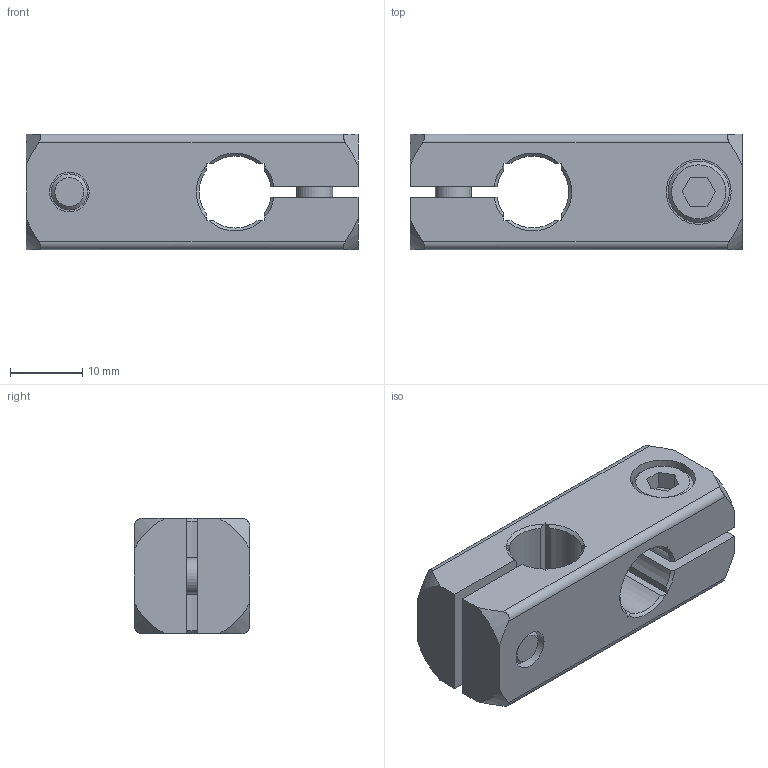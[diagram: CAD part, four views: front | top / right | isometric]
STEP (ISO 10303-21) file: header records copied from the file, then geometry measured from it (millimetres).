
FILE_DESCRIPTION( ( 'STEP AP203' ), '1' );
FILE_NAME( 'C:/Temp/Ganter_Step_05_03_2020/data/3_7/gn_474/Two-way clamp mounting GN 474-B10-B10-ELS.stp', '2020-03-12T14:44:43', ( 'License CC BY-ND 4.0' ), ( 'CADENAS' ), ' ', 'PARTsolutions', ' ' );
FILE_SCHEMA( ( 'CONFIG_CONTROL_DESIGN' ) );
Length unit declared in the file: millimetre
Products named in the file (1): _Two-way clamp mounting GN 474-B10-B10-ELS
Bounding box: 46 x 16 x 16 mm (x, y, z)
Volume: 8283.6 mm3; surface area: 5807.9 mm2
Topology: 1 solids, 1 shells, 106 faces, 280 edges, 186 vertices
Faces by surface type: plane 50, cone 32, cylinder 24
Full cylindrical faces by diameter (mm): 5 x2, 5.5 x4, 8.5 x2, 9 x2
Entity records: 3404 total; most frequent: CARTESIAN_POINT 843, ORIENTED_EDGE 528, DIRECTION 486, EDGE_CURVE 264, VERTEX_POINT 184, AXIS2_PLACEMENT_3D 179, EDGE_LOOP 134, LINE 128
